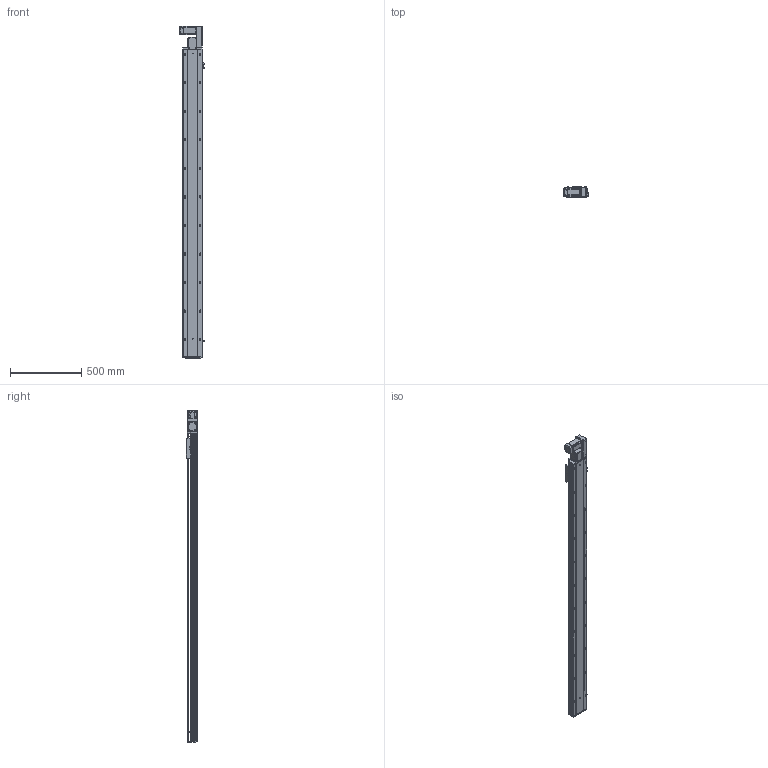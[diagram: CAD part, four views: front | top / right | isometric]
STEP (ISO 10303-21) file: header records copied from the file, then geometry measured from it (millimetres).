
FILE_DESCRIPTION (( 'STEP AP203' ), '1' );
FILE_NAME ('RY140-T-300-RK.SLDASM_1900.step', '2021-03-01T06:47:07', ( '盈信电脑' ), ( '东莞市道滘镇水果街19号' ), 'SwSTEP 2.0', 'SolidWorks 2012', '' );
FILE_SCHEMA (( 'CONFIG_CONTROL_DESIGN' ));
Length unit declared in the file: millimetre
Products named in the file (17): RY140-T-300-RK.SLDASM_1900; RY120-T主同步轮轴承压盖; 15; RY120-T蹟翐M4; RY140-T萇儂假蚾啣; RY140-T翋肮謫裔啣; 滅袉蝶18-10; RY140-T萇儂欶; RY140-T翋肮祭謫盓傅釱; RY120-T肮祭湍揤踡輸1; RY120外置感应片(140共用）; RY120-T肮祭湍揤踡輸2; RY140肮祭謫臏賑輸; RY140-T-300-DR倰第奻裔啣_1900; 覜茼ん672; RY140綴裔啣; RY140-T-300-DR倰第菁釱_1900
Assembly tree (22 placements, depth 2):
  RY140-T-300-RK.SLDASM_1900
    RY140-T-300-DR倰第菁釱_1900
    RY140肮祭謫臏賑輸
    RY140-T-300-DR倰第奻裔啣_1900
    RY140綴裔啣
    覜茼ん672  x3
    RY120外置感应片(140共用）
    RY120-T肮祭湍揤踡輸2
    RY120-T肮祭湍揤踡輸1
    RY140-T翋肮祭謫盓傅釱
    滅袉蝶18-10  x2
    RY140-T翋肮謫裔啣
    RY140-T萇儂欶
    RY140-T萇儂假蚾啣
    RY120-T蹟翐M4  x4
    15
    RY120-T主同步轮轴承压盖
Bounding box: 170.7 x 78 x 2326.5 mm (x, y, z)
Volume: 6149766.1 mm3; surface area: 2403167 mm2
Topology: 22 solids, 22 shells, 2855 faces, 7837 edges, 4988 vertices
Faces by surface type: plane 1381, cylinder 1092, cone 282, bspline 100
Entity records: 90142 total; most frequent: CARTESIAN_POINT 21899, ORIENTED_EDGE 14034, DIRECTION 13421, EDGE_CURVE 7017, VERTEX_POINT 4587, AXIS2_PLACEMENT_3D 4510, VECTOR 4401, LINE 4401
